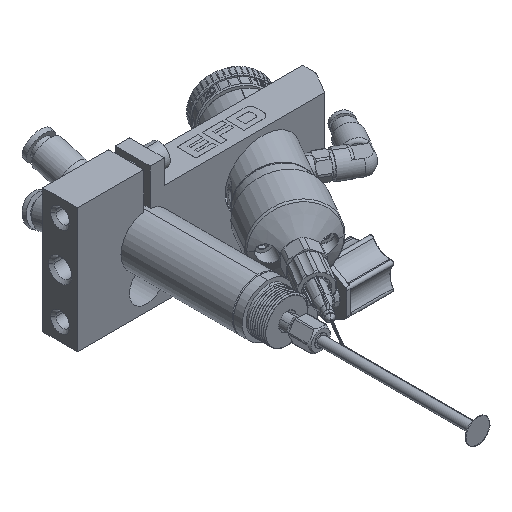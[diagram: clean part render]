
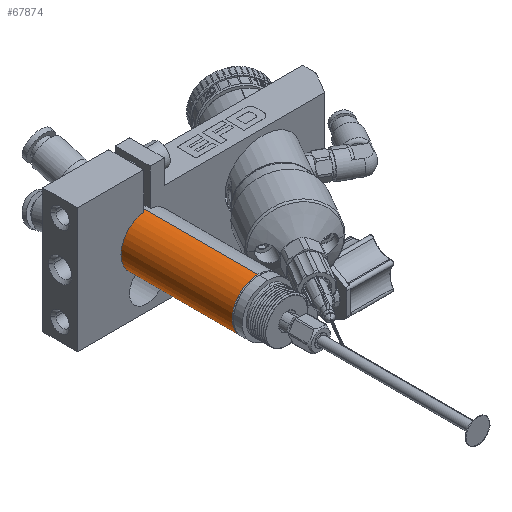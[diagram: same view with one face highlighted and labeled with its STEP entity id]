
A CAD part, isometric view. The second image highlights one B-rep face of the part: STEP entity #67874.
In plain terms, the highlighted cylindrical face has radius 9.398 mm (diameter 18.796 mm), a partial arc.
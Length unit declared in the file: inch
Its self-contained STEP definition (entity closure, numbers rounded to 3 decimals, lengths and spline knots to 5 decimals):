
#7 = CYLINDRICAL_SURFACE ( 'NONE', #61179, 0.37 ) ;
#3465 = CARTESIAN_POINT ( 'NONE',  ( 0.37, -0.67061, 0. ) ) ;
#5021 = CIRCLE ( 'NONE', #99507, 0.37 ) ;
#5847 = ORIENTED_EDGE ( 'NONE', *, *, #97546, .T. ) ;
#6626 = ORIENTED_EDGE ( 'NONE', *, *, #111663, .F. ) ;
#11684 = LINE ( 'NONE', #3465, #73063 ) ;
#15868 = CIRCLE ( 'NONE', #29865, 0.37 ) ;
#17645 = DIRECTION ( 'NONE',  ( 1., 0., 0. ) ) ;
#19476 = LINE ( 'NONE', #115174, #93999 ) ;
#28956 = DIRECTION ( 'NONE',  ( 0., -1., 0. ) ) ;
#29865 = AXIS2_PLACEMENT_3D ( 'NONE', #98338, #50497, #31638 ) ;
#30142 = EDGE_CURVE ( 'NONE', #79051, #65000, #15868, .T. ) ;
#31638 = DIRECTION ( 'NONE',  ( 1., 0., 0. ) ) ;
#35362 = CARTESIAN_POINT ( 'NONE',  ( 0.37, 2.18, 0. ) ) ;
#37984 = DIRECTION ( 'NONE',  ( 1., 0., 0. ) ) ;
#40386 = EDGE_CURVE ( 'NONE', #45662, #65000, #11684, .T. ) ;
#45662 = VERTEX_POINT ( 'NONE', #35362 ) ;
#45679 = CARTESIAN_POINT ( 'NONE',  ( -0.37, 0.145, 0. ) ) ;
#50497 = DIRECTION ( 'NONE',  ( 0., -1., 0. ) ) ;
#53894 = CARTESIAN_POINT ( 'NONE',  ( -0.37, 2.18, 0. ) ) ;
#61179 = AXIS2_PLACEMENT_3D ( 'NONE', #115213, #28956, #17645 ) ;
#65000 = VERTEX_POINT ( 'NONE', #94861 ) ;
#67874 = ADVANCED_FACE ( 'NONE', ( #106380 ), #7, .T. ) ;
#73063 = VECTOR ( 'NONE', #100386, 39.37008 ) ;
#77054 = DIRECTION ( 'NONE',  ( 0., -1., 0. ) ) ;
#79051 = VERTEX_POINT ( 'NONE', #45679 ) ;
#84585 = ORIENTED_EDGE ( 'NONE', *, *, #40386, .T. ) ;
#93999 = VECTOR ( 'NONE', #106962, 39.37008 ) ;
#94861 = CARTESIAN_POINT ( 'NONE',  ( 0.37, 0.145, 0. ) ) ;
#94880 = ORIENTED_EDGE ( 'NONE', *, *, #30142, .F. ) ;
#97546 = EDGE_CURVE ( 'NONE', #113783, #45662, #5021, .T. ) ;
#98338 = CARTESIAN_POINT ( 'NONE',  ( 0., 0.145, 0. ) ) ;
#99507 = AXIS2_PLACEMENT_3D ( 'NONE', #105373, #77054, #37984 ) ;
#100386 = DIRECTION ( 'NONE',  ( 0., -1., 0. ) ) ;
#105373 = CARTESIAN_POINT ( 'NONE',  ( 0., 2.18, 0. ) ) ;
#106380 = FACE_OUTER_BOUND ( 'NONE', #116811, .T. ) ;
#106962 = DIRECTION ( 'NONE',  ( 0., -1., 0. ) ) ;
#111663 = EDGE_CURVE ( 'NONE', #113783, #79051, #19476, .T. ) ;
#113783 = VERTEX_POINT ( 'NONE', #53894 ) ;
#115174 = CARTESIAN_POINT ( 'NONE',  ( -0.37, -0.67061, 0. ) ) ;
#115213 = CARTESIAN_POINT ( 'NONE',  ( 0., -0.67061, 0. ) ) ;
#116811 = EDGE_LOOP ( 'NONE', ( #6626, #5847, #84585, #94880 ) ) ;
